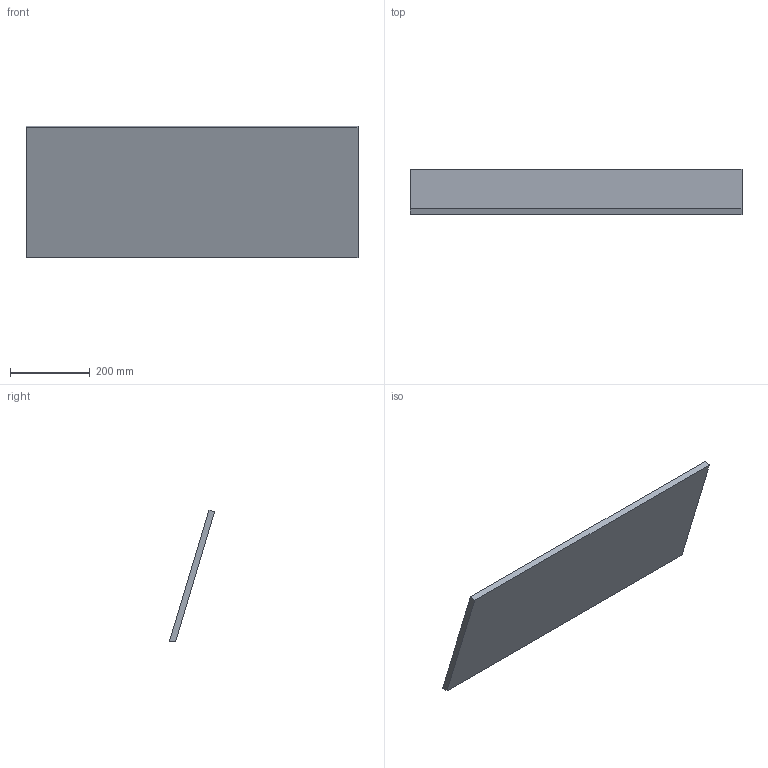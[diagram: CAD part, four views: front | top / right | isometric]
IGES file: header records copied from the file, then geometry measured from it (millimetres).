
Global section: file name: superior 2.igs; native system: NX V2312; preprocessor: SIEMENS PLM Software NX2312.5001; date: 20240809.190906; units: millimetre
Bounding box: 830 x 113.17 x 329.35 mm (x, y, z)
Surface area: 602761.4 mm2 (no closed solid volume)
Topology: 0 solids, 0 shells, 6 faces, 24 edges, 24 vertices
Faces by surface type: bspline 6
